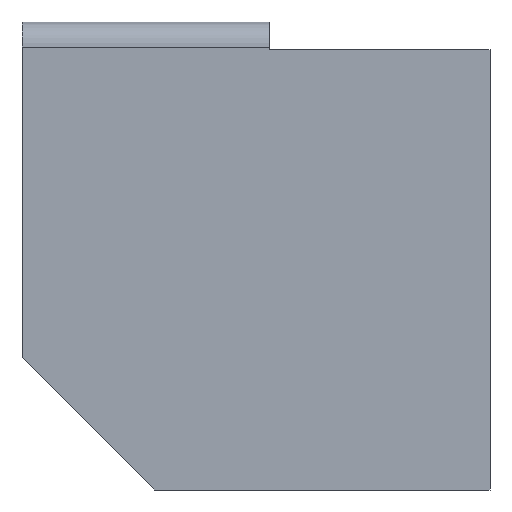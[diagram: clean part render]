
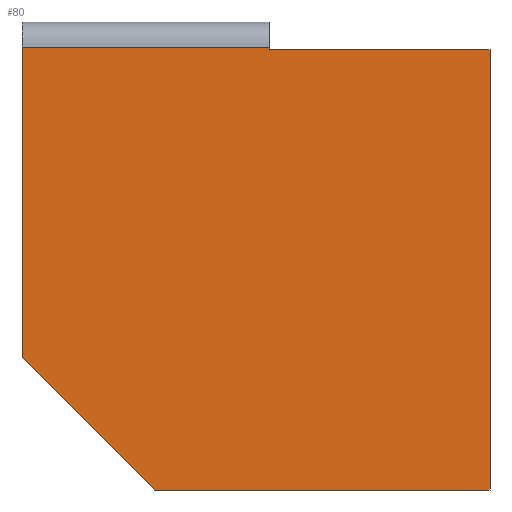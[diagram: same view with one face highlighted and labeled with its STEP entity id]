
A CAD part, front view. The second image highlights one B-rep face of the part: STEP entity #80.
In plain terms, the highlighted planar face has unit normal (0, -1, 0).
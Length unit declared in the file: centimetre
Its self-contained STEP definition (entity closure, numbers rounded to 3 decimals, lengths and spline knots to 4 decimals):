
#7 = CARTESIAN_POINT ( 'NONE',  ( 527.9496, 0., 940.5772 ) ) ;
#12 = CARTESIAN_POINT ( 'NONE',  ( 282.7074, 0., 0. ) ) ;
#13 = EDGE_CURVE ( 'NONE', #127, #84, #326, .T. ) ;
#15 = LINE ( 'NONE', #184, #424 ) ;
#34 = VERTEX_POINT ( 'NONE', #453 ) ;
#64 = ORIENTED_EDGE ( 'NONE', *, *, #105, .T. ) ;
#67 = ORIENTED_EDGE ( 'NONE', *, *, #297, .F. ) ;
#68 = CARTESIAN_POINT ( 'NONE',  ( 0., 0., 1000. ) ) ;
#80 = ADVANCED_FACE ( 'NONE', ( #487 ), #236, .F. ) ;
#82 = VECTOR ( 'NONE', #237, 100. ) ;
#84 = VERTEX_POINT ( 'NONE', #446 ) ;
#92 = CARTESIAN_POINT ( 'NONE',  ( 0., 0., 282.7074 ) ) ;
#105 = EDGE_CURVE ( 'NONE', #522, #408, #159, .T. ) ;
#127 = VERTEX_POINT ( 'NONE', #227 ) ;
#139 = CARTESIAN_POINT ( 'NONE',  ( 527.9496, 0., 940.5772 ) ) ;
#147 = CARTESIAN_POINT ( 'NONE',  ( 0., 0., 946.4886 ) ) ;
#159 = LINE ( 'NONE', #68, #353 ) ;
#168 = EDGE_CURVE ( 'NONE', #312, #127, #178, .T. ) ;
#169 = ORIENTED_EDGE ( 'NONE', *, *, #168, .F. ) ;
#171 = ORIENTED_EDGE ( 'NONE', *, *, #491, .T. ) ;
#173 = CARTESIAN_POINT ( 'NONE',  ( 0., 0., 0. ) ) ;
#178 = LINE ( 'NONE', #139, #273 ) ;
#184 = CARTESIAN_POINT ( 'NONE',  ( 0., 0., 946.4886 ) ) ;
#207 = DIRECTION ( 'NONE',  ( 0., 0., -1. ) ) ;
#222 = ORIENTED_EDGE ( 'NONE', *, *, #407, .T. ) ;
#227 = CARTESIAN_POINT ( 'NONE',  ( 1000., 0., 940.5772 ) ) ;
#236 = PLANE ( 'NONE',  #485 ) ;
#237 = DIRECTION ( 'NONE',  ( 0., 0., -1. ) ) ;
#245 = CARTESIAN_POINT ( 'NONE',  ( 527.9496, 0., 940.5772 ) ) ;
#246 = VERTEX_POINT ( 'NONE', #12 ) ;
#262 = DIRECTION ( 'NONE',  ( -1., 0., 0. ) ) ;
#264 = EDGE_CURVE ( 'NONE', #34, #522, #15, .T. ) ;
#270 = DIRECTION ( 'NONE',  ( 0., 0., 1. ) ) ;
#273 = VECTOR ( 'NONE', #295, 100. ) ;
#295 = DIRECTION ( 'NONE',  ( 1., 0., 0. ) ) ;
#297 = EDGE_CURVE ( 'NONE', #34, #312, #505, .T. ) ;
#303 = LINE ( 'NONE', #472, #452 ) ;
#311 = VECTOR ( 'NONE', #508, 100. ) ;
#312 = VERTEX_POINT ( 'NONE', #7 ) ;
#316 = ORIENTED_EDGE ( 'NONE', *, *, #13, .F. ) ;
#326 = LINE ( 'NONE', #492, #82 ) ;
#341 = LINE ( 'NONE', #173, #311 ) ;
#344 = VECTOR ( 'NONE', #207, 100. ) ;
#351 = DIRECTION ( 'NONE',  ( 0., 0., -1. ) ) ;
#353 = VECTOR ( 'NONE', #351, 100. ) ;
#356 = DIRECTION ( 'NONE',  ( 0., 1., 0. ) ) ;
#393 = DIRECTION ( 'NONE',  ( 0.707, 0., -0.707 ) ) ;
#407 = EDGE_CURVE ( 'NONE', #246, #84, #341, .T. ) ;
#408 = VERTEX_POINT ( 'NONE', #92 ) ;
#424 = VECTOR ( 'NONE', #262, 100. ) ;
#436 = EDGE_LOOP ( 'NONE', ( #316, #169, #67, #455, #64, #171, #222 ) ) ;
#446 = CARTESIAN_POINT ( 'NONE',  ( 1000., 0., 0. ) ) ;
#452 = VECTOR ( 'NONE', #393, 100. ) ;
#453 = CARTESIAN_POINT ( 'NONE',  ( 527.9496, 0., 946.4886 ) ) ;
#455 = ORIENTED_EDGE ( 'NONE', *, *, #264, .T. ) ;
#472 = CARTESIAN_POINT ( 'NONE',  ( 0., 0., 282.7074 ) ) ;
#485 = AXIS2_PLACEMENT_3D ( 'NONE', #529, #356, #270 ) ;
#487 = FACE_OUTER_BOUND ( 'NONE', #436, .T. ) ;
#491 = EDGE_CURVE ( 'NONE', #408, #246, #303, .T. ) ;
#492 = CARTESIAN_POINT ( 'NONE',  ( 1000., 0., 1000. ) ) ;
#505 = LINE ( 'NONE', #245, #344 ) ;
#508 = DIRECTION ( 'NONE',  ( 1., 0., 0. ) ) ;
#522 = VERTEX_POINT ( 'NONE', #147 ) ;
#529 = CARTESIAN_POINT ( 'NONE',  ( 0., 0., 1000. ) ) ;
